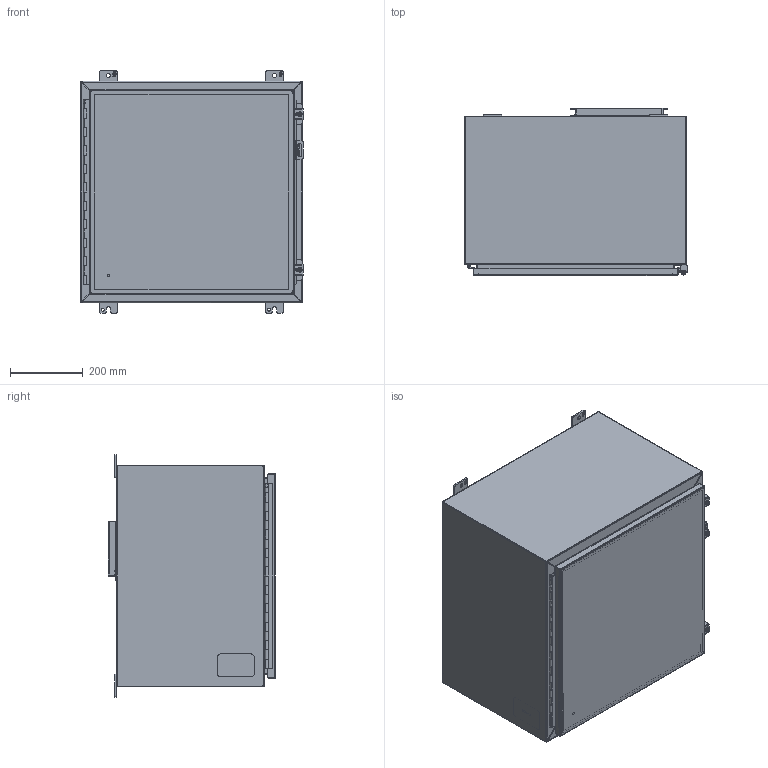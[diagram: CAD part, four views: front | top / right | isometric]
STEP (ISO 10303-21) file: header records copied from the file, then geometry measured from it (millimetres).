
FILE_DESCRIPTION(/* description */ ('Unknown'),/* implementation_level */ '2;1');
FILE_NAME(/* name */ '1418J16LP',/* time_stamp */ '2026-02-20T16:32:03-05:00',/* author */ ('Unknown'),/* organization */ ('Unknown'),/* preprocessor_version */ 'ST-DEVELOPER v18.104',/* originating_system */ 'Solid Edge',/* authorisation */ 'Unknown');
FILE_SCHEMA (('AUTOMOTIVE_DESIGN {1 0 10303 214 3 1 1}'));
Length unit declared in the file: millimetre
Products named in the file (31): 1418J16LP; KIT90256; LAB30005; NTS165305; NTS16535; STD26094; STD21878; COM42780; KIT90518; WAF25059; NTS166105; COM40153-1; COM71780-11; COM40153-2; PNT11078; HNG10620-20C; COM70219_oa_0; COM48479; FET07710; HNG10620-20P; AKT90223; SPR20265; SCC19011; WAF25035; COM42667; BUL10020; QLB30109; PKT99; COM48510; HNG10620-20B
Assembly tree (42 placements, depth 3):
  1418J16LP
    KIT90256
      LAB30005
      NTS165305
      NTS16535
    STD26094  x4
    STD21878
    COM42780  x2
    KIT90518
      WAF25059
      NTS166105
      LAB30005
    COM40153-1
    COM71780-11
      COM40153-2
      PNT11078
      HNG10620-20C
      COM70219_oa_0
      COM71780-11
      STD21878
    COM48479
    FET07710  x4
    HNG10620-20P
    AKT90223  x2
      SPR20265
      SCC19011
      WAF25035
      COM42667
    BUL10020
    QLB30109
    PKT99
    COM48510  x2
    HNG10620-20B
    PNT11078
Bounding box: 612.77 x 460.38 x 666.75 mm (x, y, z)
Volume: 3763880.1 mm3; surface area: 4061533.3 mm2
Topology: 36 solids, 37 shells, 1177 faces, 3035 edges, 1966 vertices
Faces by surface type: plane 770, cylinder 302, bspline 57, cone 26, torus 20, sphere 2
Full cylindrical faces by diameter (mm): 3.175 x1, 4.763 x1, 4.976 x1, 5.41 x2, 6.198 x2, 6.35 x3, 6.731 x2, 7.137 x2, 7.805 x1, 7.938 x4, 8.382 x4, 9.525 x4, 9.906 x2, 11.113 x4, 11.303 x1, 12.7 x2, 16.51 x4, 25.4 x1, 88.9 x1
Entity records: 28508 total; most frequent: CARTESIAN_POINT 7755, ORIENTED_EDGE 4148, DIRECTION 3909, EDGE_CURVE 2074, LINE 1379, VECTOR 1379, VERTEX_POINT 1357, AXIS2_PLACEMENT_3D 1265
